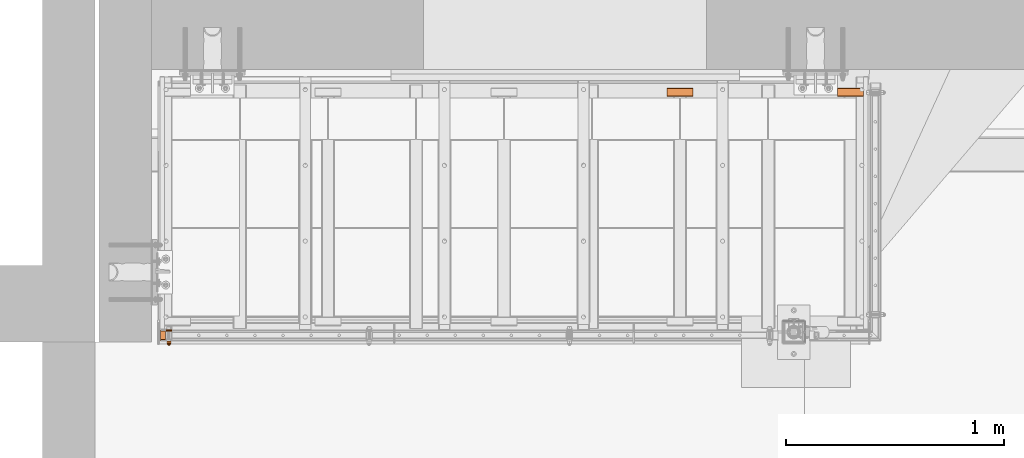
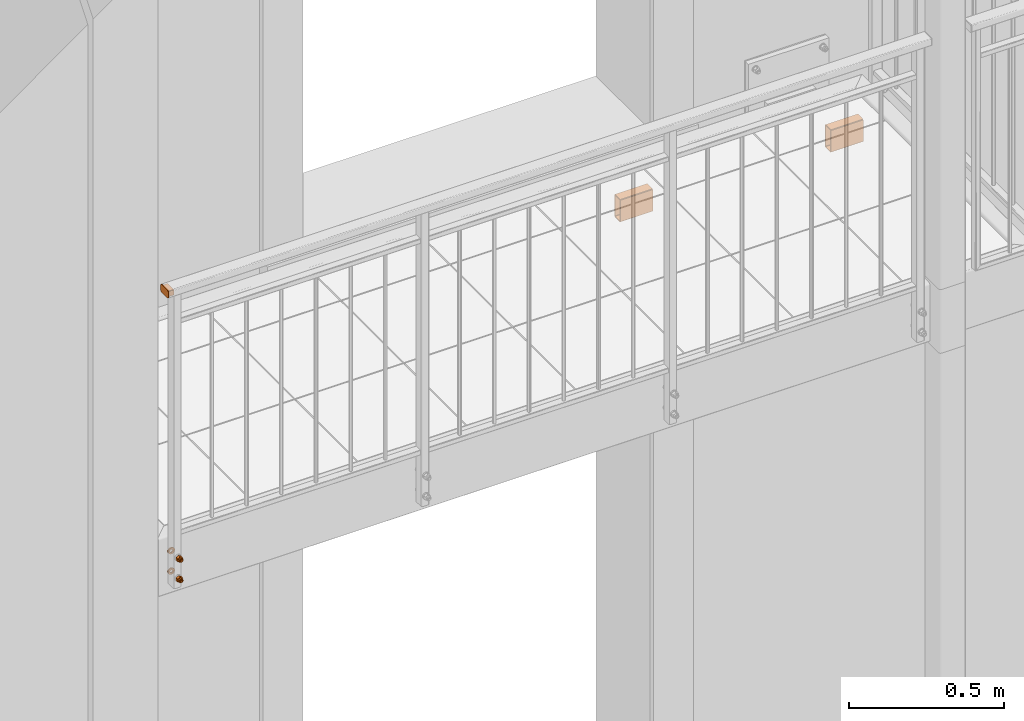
# One storey, part 101 of 162: 7 proxies.
"""IFC2X3 building model written with IfcOpenShell, lengths in millimetres."""

from ifc_helpers import new_model, entity, si_unit, converted_unit, origin_with_axes, place, context, project, spatial, faceted_brep, material, element, save


model = new_model("IFC2X3")

# Units and contexts
model_context = context("Model", 3, precision=1e-09, world=origin_with_axes())
ifc_project = project(units=[si_unit("LENGTHUNIT", "METRE", prefix="MILLI"), si_unit("AREAUNIT", "SQUARE_METRE"), si_unit("VOLUMEUNIT", "CUBIC_METRE"), converted_unit("PLANEANGLEUNIT", "DEGREE", entity("IfcPlaneAngleMeasure", 0.01745329), si_unit("PLANEANGLEUNIT", "RADIAN"), dimensions=[0, 0, 0, 0, 0, 0, 0])], contexts=[model_context])

# Site, building, storey
site_placement = place(None, origin_with_axes())
site = spatial("IfcSite", under=ifc_project, at=site_placement, Name="Hermannstra?e 1a, 60318 Frankfurt", CompositionType="ELEMENT")
building_placement = place(site_placement, origin_with_axes())
building = spatial("IfcBuilding", under=site, at=building_placement, Name="Struktur 1", CompositionType="ELEMENT")
storey_placement = place(building_placement, origin_with_axes())
storey = spatial("IfcBuildingStorey", under=building, at=storey_placement, Name="Default Storey", CompositionType="ELEMENT", Elevation=0.0)

# Proxies
ifc_material_1 = material(Name="Kein")
proxy_1_placement = place(None, origin_with_axes())
element("IfcBuildingElementProxy", 1, at=proxy_1_placement, inside=storey, material=ifc_material_1, ObjectType="-", context=model_context, shape_type="Brep", body=[
    faceted_brep([(2588.31036482, 1494.609373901, 4931.0), (2588.31036482, 1494.609373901, 4949.0), (2568.31036482, 1494.609373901, 4949.0), (2568.31036482, 1494.609373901, 4931.0), (2588.31036482, 1494.877323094, 4950.0), (2568.31036482, 1494.877323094, 4950.0), (2568.31036482, 1495.609373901, 4950.732050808), (2588.31036482, 1495.609373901, 4950.732050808), (2588.31036482, 1496.609373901, 4951.0), (2568.31036482, 1496.609373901, 4951.0), (2568.31036482, 1494.877323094, 4930.0), (2588.31036482, 1494.877323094, 4930.0), (2568.31036482, 1495.609373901, 4929.267949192), (2588.31036482, 1495.609373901, 4929.267949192), (2588.31036482, 1496.609373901, 4929.0), (2588.31036482, 1534.609373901, 4929.0), (2588.31036482, 1535.609373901, 4929.267949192), (2588.31036482, 1536.341424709, 4930.0), (2588.31036482, 1536.609373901, 4931.0), (2588.31036482, 1536.609373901, 4949.0), (2588.31036482, 1536.341424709, 4950.0), (2588.31036482, 1535.609373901, 4950.732050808), (2588.31036482, 1534.609373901, 4951.0), (2588.31036482, 1498.609373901, 4947.0), (2588.31036482, 1532.609373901, 4947.0), (2588.31036482, 1532.609373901, 4933.0), (2588.31036482, 1498.609373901, 4933.0), (2568.31036482, 1534.609373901, 4951.0), (2568.31036482, 1535.609373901, 4950.732050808), (2568.31036482, 1536.341424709, 4950.0), (2568.31036482, 1536.609373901, 4949.0), (2568.31036482, 1536.609373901, 4931.0), (2568.31036482, 1536.341424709, 4930.0), (2568.31036482, 1535.609373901, 4929.267949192), (2568.31036482, 1534.609373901, 4929.0), (2568.31036482, 1496.609373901, 4929.0), (2568.31036482, 1498.609373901, 4947.0), (2568.31036482, 1498.609373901, 4933.0), (2568.31036482, 1532.609373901, 4933.0), (2568.31036482, 1532.609373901, 4947.0)], [[[0, 1, 2, 3]], [[2, 1, 4, 5]], [[6, 7, 8, 9]], [[5, 4, 7, 6]], [[0, 3, 10, 11]], [[11, 10, 12, 13]], [[7, 4, 1, 0, 11, 13, 14, 15, 16, 17, 18, 19, 20, 21, 22, 8], [23, 24, 25, 26]], [[3, 2, 5, 6, 9, 27, 28, 29, 30, 31, 32, 33, 34, 35, 12, 10], [36, 37, 38, 39]], [[21, 28, 27, 22]], [[8, 22, 27, 9]], [[37, 36, 23, 26]], [[28, 21, 20, 29]], [[13, 12, 35, 14]], [[26, 25, 38, 37]], [[15, 14, 35, 34]], [[15, 34, 33, 16]], [[36, 39, 24, 23]], [[29, 20, 19, 30]], [[16, 33, 32, 17]], [[25, 24, 39, 38]], [[19, 18, 31, 30]], [[17, 32, 31, 18]]]),
    faceted_brep([(2565.31036482, 1496.609373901, 4925.0), (2568.31036482, 1496.609373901, 4925.0), (2568.31036482, 1493.609373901, 4925.803847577), (2565.31036482, 1493.609373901, 4925.803847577), (2568.31036482, 1491.413221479, 4928.0), (2565.31036482, 1491.413221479, 4928.0), (2568.31036482, 1534.609373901, 4925.0), (2565.31036482, 1534.609373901, 4925.0), (2565.31036482, 1537.609373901, 4925.803847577), (2568.31036482, 1537.609373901, 4925.803847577), (2565.31036482, 1539.805526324, 4928.0), (2568.31036482, 1539.805526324, 4928.0), (2568.31036482, 1490.609373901, 4931.0), (2568.31036482, 1540.609373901, 4931.0), (2568.31036482, 1540.609373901, 4949.0), (2568.31036482, 1539.805526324, 4952.0), (2568.31036482, 1537.609373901, 4954.196152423), (2568.31036482, 1534.609373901, 4955.0), (2568.31036482, 1496.609373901, 4955.0), (2568.31036482, 1493.609373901, 4954.196152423), (2568.31036482, 1491.413221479, 4952.0), (2568.31036482, 1490.609373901, 4949.0), (2565.31036482, 1540.609373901, 4931.0), (2565.31036482, 1490.609373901, 4931.0), (2565.31036482, 1490.609373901, 4949.0), (2565.31036482, 1491.413221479, 4952.0), (2565.31036482, 1493.609373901, 4954.196152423), (2565.31036482, 1496.609373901, 4955.0), (2565.31036482, 1534.609373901, 4955.0), (2565.31036482, 1537.609373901, 4954.196152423), (2565.31036482, 1539.805526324, 4952.0), (2565.31036482, 1540.609373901, 4949.0)], [[[0, 1, 2, 3]], [[3, 2, 4, 5]], [[6, 7, 8, 9]], [[9, 8, 10, 11]], [[12, 4, 2, 1, 6, 9, 11, 13, 14, 15, 16, 17, 18, 19, 20, 21]], [[0, 7, 6, 1]], [[22, 10, 8, 7, 0, 3, 5, 23, 24, 25, 26, 27, 28, 29, 30, 31]], [[5, 4, 12, 23]], [[12, 21, 24, 23]], [[11, 10, 22, 13]], [[19, 26, 25, 20]], [[20, 25, 24, 21]], [[26, 19, 18, 27]], [[22, 31, 14, 13]], [[18, 17, 28, 27]], [[14, 31, 30, 15]], [[16, 29, 28, 17]], [[15, 30, 29, 16]]]),
])
proxy_2_placement = place(None, origin_with_axes())
element("IfcBuildingElementProxy", 2, at=proxy_2_placement, inside=storey, material=ifc_material_1, ObjectType="-", context=model_context, shape_type="Brep", body=[
    faceted_brep([(2597.30936482, 1490.609373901, 3815.0), (2597.30936482, 1480.609373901, 3815.0), (2598.113212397, 1480.609373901, 3812.0), (2598.113212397, 1490.609373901, 3812.0), (2600.30936482, 1480.609373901, 3809.803847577), (2600.30936482, 1490.609373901, 3809.803847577), (2598.113212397, 1490.609373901, 3818.0), (2598.113212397, 1480.609373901, 3818.0), (2593.829495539, 1490.609373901, 3820.473205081), (2603.30936482, 1490.609373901, 3825.946410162), (2612.7892341, 1490.609373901, 3820.473205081), (2612.7892341, 1490.609373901, 3809.526794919), (2603.30936482, 1490.609373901, 3804.053589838), (2593.829495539, 1490.609373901, 3809.526794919), (2600.30936482, 1490.609373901, 3820.196152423), (2603.30936482, 1490.609373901, 3809.0), (2606.30936482, 1490.609373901, 3809.803847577), (2608.505517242, 1490.609373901, 3812.0), (2609.30936482, 1490.609373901, 3815.0), (2608.505517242, 1490.609373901, 3818.0), (2606.30936482, 1490.609373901, 3820.196152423), (2603.30936482, 1490.609373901, 3821.0), (2603.30936482, 1480.609373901, 3825.946410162), (2593.829495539, 1480.609373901, 3820.473205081), (2593.829495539, 1480.609373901, 3809.526794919), (2603.30936482, 1480.609373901, 3804.053589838), (2612.7892341, 1480.609373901, 3809.526794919), (2612.7892341, 1480.609373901, 3820.473205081), (2600.30936482, 1480.609373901, 3820.196152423), (2603.30936482, 1480.609373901, 3821.0), (2606.30936482, 1480.609373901, 3820.196152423), (2608.505517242, 1480.609373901, 3818.0), (2609.30936482, 1480.609373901, 3815.0), (2608.505517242, 1480.609373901, 3812.0), (2606.30936482, 1480.609373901, 3809.803847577), (2603.30936482, 1480.609373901, 3809.0)], [[[0, 1, 2, 3]], [[3, 2, 4, 5]], [[1, 0, 6, 7]], [[8, 9, 10, 11, 12, 13], [14, 6, 0, 3, 5, 15, 16, 17, 18, 19, 20, 21]], [[22, 23, 24, 25, 26, 27], [1, 7, 28, 29, 30, 31, 32, 33, 34, 35, 4, 2]], [[7, 6, 14, 28]], [[24, 23, 8, 13]], [[5, 4, 35, 15]], [[13, 12, 25, 24]], [[28, 14, 21, 29]], [[23, 22, 9, 8]], [[15, 35, 34, 16]], [[12, 11, 26, 25]], [[29, 21, 20, 30]], [[22, 27, 10, 9]], [[16, 34, 33, 17]], [[27, 26, 11, 10]], [[30, 20, 19, 31]], [[17, 33, 32, 18]], [[31, 19, 18, 32]]]),
    faceted_brep([(2603.30936482, 1480.609373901, 3824.0), (2603.30936482, 1477.609373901, 3824.0), (2607.80936482, 1477.609373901, 3822.794228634), (2607.80936482, 1480.609373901, 3822.794228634), (2598.80936482, 1480.609373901, 3822.794228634), (2598.80936482, 1477.609373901, 3822.794228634), (2595.515136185, 1477.609373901, 3810.5), (2598.80936482, 1477.609373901, 3807.205771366), (2603.30936482, 1477.609373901, 3806.0), (2607.80936482, 1477.609373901, 3807.205771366), (2611.103593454, 1477.609373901, 3810.5), (2612.30936482, 1477.609373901, 3815.0), (2611.103593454, 1477.609373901, 3819.5), (2595.515136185, 1477.609373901, 3819.5), (2594.30936482, 1477.609373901, 3815.0), (2611.103593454, 1480.609373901, 3810.5), (2607.80936482, 1480.609373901, 3807.205771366), (2603.30936482, 1480.609373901, 3806.0), (2598.80936482, 1480.609373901, 3807.205771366), (2595.515136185, 1480.609373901, 3810.5), (2594.30936482, 1480.609373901, 3815.0), (2595.515136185, 1480.609373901, 3819.5), (2611.103593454, 1480.609373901, 3819.5), (2612.30936482, 1480.609373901, 3815.0)], [[[0, 1, 2, 3]], [[1, 0, 4, 5]], [[6, 7, 8, 9, 10, 11, 12, 2, 1, 5, 13, 14]], [[15, 16, 17, 18, 19, 20, 21, 4, 0, 3, 22, 23]], [[3, 2, 12, 22]], [[5, 4, 21, 13]], [[22, 12, 11, 23]], [[13, 21, 20, 14]], [[7, 18, 17, 8]], [[19, 6, 14, 20]], [[18, 7, 6, 19]], [[23, 11, 10, 15]], [[8, 17, 16, 9]], [[15, 10, 9, 16]]]),
    faceted_brep([(2595.515136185, 1477.609373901, 3819.5), (2596.55936482, 1473.109373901, 3818.897114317), (2599.412250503, 1473.109373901, 3821.75), (2598.80936482, 1477.609373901, 3822.794228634), (2611.103593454, 1477.609373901, 3810.5), (2607.80936482, 1477.609373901, 3807.205771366), (2603.30936482, 1477.609373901, 3806.0), (2598.80936482, 1477.609373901, 3807.205771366), (2595.515136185, 1477.609373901, 3810.5), (2594.30936482, 1477.609373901, 3815.0), (2603.30936482, 1477.609373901, 3824.0), (2607.80936482, 1477.609373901, 3822.794228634), (2611.103593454, 1477.609373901, 3819.5), (2612.30936482, 1477.609373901, 3815.0), (2603.30936482, 1473.109373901, 3822.794228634), (2595.515136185, 1473.109373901, 3815.0), (2598.80936482, 1469.815145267, 3815.0), (2599.412250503, 1469.815145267, 3817.25), (2607.206479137, 1473.109373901, 3821.75), (2601.05936482, 1469.815145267, 3818.897114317), (2596.55936482, 1473.109373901, 3811.102885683), (2599.412250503, 1469.815145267, 3812.75), (2603.30936482, 1469.815145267, 3819.5), (2603.30936482, 1468.609373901, 3815.0), (2599.412250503, 1473.109373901, 3808.25), (2601.05936482, 1469.815145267, 3811.102885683), (2603.30936482, 1473.109373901, 3807.205771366), (2610.05936482, 1473.109373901, 3818.897114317), (2605.55936482, 1469.815145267, 3818.897114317), (2603.30936482, 1469.815145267, 3810.5), (2607.206479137, 1473.109373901, 3808.25), (2605.55936482, 1469.815145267, 3811.102885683), (2611.103593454, 1473.109373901, 3815.0), (2607.206479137, 1469.815145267, 3817.25), (2610.05936482, 1473.109373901, 3811.102885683), (2607.206479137, 1469.815145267, 3812.75), (2607.80936482, 1469.815145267, 3815.0)], [[[0, 1, 2, 3]], [[4, 5, 6, 7, 8, 9, 0, 3, 10, 11, 12, 13]], [[3, 2, 14, 10]], [[15, 16, 17, 1]], [[1, 0, 9, 15]], [[10, 14, 18, 11]], [[1, 17, 19, 2]], [[16, 15, 20, 21]], [[2, 19, 22, 14]], [[23, 17, 16]], [[24, 25, 21, 20]], [[23, 16, 21]], [[24, 7, 6, 26]], [[20, 8, 7, 24]], [[15, 9, 8, 20]], [[11, 18, 27, 12]], [[14, 22, 28, 18]], [[23, 19, 17]], [[26, 29, 25, 24]], [[23, 21, 25]], [[23, 22, 19]], [[26, 6, 5, 30]], [[29, 26, 30, 31]], [[23, 25, 29]], [[12, 27, 32, 13]], [[18, 28, 33, 27]], [[23, 28, 22]], [[23, 29, 31]], [[23, 33, 28]], [[30, 5, 4, 34]], [[31, 30, 34, 35]], [[23, 31, 35]], [[13, 32, 34, 4]], [[27, 33, 36, 32]], [[23, 36, 33]], [[23, 35, 36]], [[35, 34, 32, 36]]]),
])
proxy_3_placement = place(None, origin_with_axes())
element("IfcBuildingElementProxy", 3, at=proxy_3_placement, inside=storey, material=ifc_material_1, ObjectType="-", context=model_context, shape_type="Brep", body=[
    faceted_brep([(2597.30936482, 1490.609373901, 3895.0), (2597.30936482, 1480.609373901, 3895.0), (2598.113212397, 1480.609373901, 3892.0), (2598.113212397, 1490.609373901, 3892.0), (2600.30936482, 1480.609373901, 3889.803847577), (2600.30936482, 1490.609373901, 3889.803847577), (2598.113212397, 1490.609373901, 3898.0), (2598.113212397, 1480.609373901, 3898.0), (2593.829495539, 1490.609373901, 3900.473205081), (2603.30936482, 1490.609373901, 3905.946410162), (2612.7892341, 1490.609373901, 3900.473205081), (2612.7892341, 1490.609373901, 3889.526794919), (2603.30936482, 1490.609373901, 3884.053589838), (2593.829495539, 1490.609373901, 3889.526794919), (2600.30936482, 1490.609373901, 3900.196152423), (2603.30936482, 1490.609373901, 3889.0), (2606.30936482, 1490.609373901, 3889.803847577), (2608.505517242, 1490.609373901, 3892.0), (2609.30936482, 1490.609373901, 3895.0), (2608.505517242, 1490.609373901, 3898.0), (2606.30936482, 1490.609373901, 3900.196152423), (2603.30936482, 1490.609373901, 3901.0), (2603.30936482, 1480.609373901, 3905.946410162), (2593.829495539, 1480.609373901, 3900.473205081), (2593.829495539, 1480.609373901, 3889.526794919), (2603.30936482, 1480.609373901, 3884.053589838), (2612.7892341, 1480.609373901, 3889.526794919), (2612.7892341, 1480.609373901, 3900.473205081), (2600.30936482, 1480.609373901, 3900.196152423), (2603.30936482, 1480.609373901, 3901.0), (2606.30936482, 1480.609373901, 3900.196152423), (2608.505517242, 1480.609373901, 3898.0), (2609.30936482, 1480.609373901, 3895.0), (2608.505517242, 1480.609373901, 3892.0), (2606.30936482, 1480.609373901, 3889.803847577), (2603.30936482, 1480.609373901, 3889.0)], [[[0, 1, 2, 3]], [[3, 2, 4, 5]], [[1, 0, 6, 7]], [[8, 9, 10, 11, 12, 13], [14, 6, 0, 3, 5, 15, 16, 17, 18, 19, 20, 21]], [[22, 23, 24, 25, 26, 27], [1, 7, 28, 29, 30, 31, 32, 33, 34, 35, 4, 2]], [[7, 6, 14, 28]], [[24, 23, 8, 13]], [[5, 4, 35, 15]], [[13, 12, 25, 24]], [[28, 14, 21, 29]], [[23, 22, 9, 8]], [[15, 35, 34, 16]], [[12, 11, 26, 25]], [[29, 21, 20, 30]], [[22, 27, 10, 9]], [[16, 34, 33, 17]], [[27, 26, 11, 10]], [[30, 20, 19, 31]], [[17, 33, 32, 18]], [[31, 19, 18, 32]]]),
    faceted_brep([(2603.30936482, 1480.609373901, 3904.0), (2603.30936482, 1477.609373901, 3904.0), (2607.80936482, 1477.609373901, 3902.794228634), (2607.80936482, 1480.609373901, 3902.794228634), (2598.80936482, 1480.609373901, 3902.794228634), (2598.80936482, 1477.609373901, 3902.794228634), (2595.515136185, 1477.609373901, 3890.5), (2598.80936482, 1477.609373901, 3887.205771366), (2603.30936482, 1477.609373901, 3886.0), (2607.80936482, 1477.609373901, 3887.205771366), (2611.103593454, 1477.609373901, 3890.5), (2612.30936482, 1477.609373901, 3895.0), (2611.103593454, 1477.609373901, 3899.5), (2595.515136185, 1477.609373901, 3899.5), (2594.30936482, 1477.609373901, 3895.0), (2611.103593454, 1480.609373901, 3890.5), (2607.80936482, 1480.609373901, 3887.205771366), (2603.30936482, 1480.609373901, 3886.0), (2598.80936482, 1480.609373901, 3887.205771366), (2595.515136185, 1480.609373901, 3890.5), (2594.30936482, 1480.609373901, 3895.0), (2595.515136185, 1480.609373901, 3899.5), (2611.103593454, 1480.609373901, 3899.5), (2612.30936482, 1480.609373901, 3895.0)], [[[0, 1, 2, 3]], [[1, 0, 4, 5]], [[6, 7, 8, 9, 10, 11, 12, 2, 1, 5, 13, 14]], [[15, 16, 17, 18, 19, 20, 21, 4, 0, 3, 22, 23]], [[3, 2, 12, 22]], [[5, 4, 21, 13]], [[22, 12, 11, 23]], [[13, 21, 20, 14]], [[7, 18, 17, 8]], [[19, 6, 14, 20]], [[18, 7, 6, 19]], [[23, 11, 10, 15]], [[8, 17, 16, 9]], [[15, 10, 9, 16]]]),
    faceted_brep([(2595.515136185, 1477.609373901, 3899.5), (2596.55936482, 1473.109373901, 3898.897114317), (2599.412250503, 1473.109373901, 3901.75), (2598.80936482, 1477.609373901, 3902.794228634), (2611.103593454, 1477.609373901, 3890.5), (2607.80936482, 1477.609373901, 3887.205771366), (2603.30936482, 1477.609373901, 3886.0), (2598.80936482, 1477.609373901, 3887.205771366), (2595.515136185, 1477.609373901, 3890.5), (2594.30936482, 1477.609373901, 3895.0), (2603.30936482, 1477.609373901, 3904.0), (2607.80936482, 1477.609373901, 3902.794228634), (2611.103593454, 1477.609373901, 3899.5), (2612.30936482, 1477.609373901, 3895.0), (2603.30936482, 1473.109373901, 3902.794228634), (2595.515136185, 1473.109373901, 3895.0), (2598.80936482, 1469.815145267, 3895.0), (2599.412250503, 1469.815145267, 3897.25), (2607.206479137, 1473.109373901, 3901.75), (2601.05936482, 1469.815145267, 3898.897114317), (2596.55936482, 1473.109373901, 3891.102885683), (2599.412250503, 1469.815145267, 3892.75), (2603.30936482, 1469.815145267, 3899.5), (2603.30936482, 1468.609373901, 3895.0), (2599.412250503, 1473.109373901, 3888.25), (2601.05936482, 1469.815145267, 3891.102885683), (2603.30936482, 1473.109373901, 3887.205771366), (2610.05936482, 1473.109373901, 3898.897114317), (2605.55936482, 1469.815145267, 3898.897114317), (2603.30936482, 1469.815145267, 3890.5), (2607.206479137, 1473.109373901, 3888.25), (2605.55936482, 1469.815145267, 3891.102885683), (2611.103593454, 1473.109373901, 3895.0), (2607.206479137, 1469.815145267, 3897.25), (2610.05936482, 1473.109373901, 3891.102885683), (2607.206479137, 1469.815145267, 3892.75), (2607.80936482, 1469.815145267, 3895.0)], [[[0, 1, 2, 3]], [[4, 5, 6, 7, 8, 9, 0, 3, 10, 11, 12, 13]], [[3, 2, 14, 10]], [[15, 16, 17, 1]], [[1, 0, 9, 15]], [[10, 14, 18, 11]], [[1, 17, 19, 2]], [[16, 15, 20, 21]], [[2, 19, 22, 14]], [[23, 17, 16]], [[24, 25, 21, 20]], [[23, 16, 21]], [[24, 7, 6, 26]], [[20, 8, 7, 24]], [[15, 9, 8, 20]], [[11, 18, 27, 12]], [[14, 22, 28, 18]], [[23, 19, 17]], [[26, 29, 25, 24]], [[23, 21, 25]], [[23, 22, 19]], [[26, 6, 5, 30]], [[29, 26, 30, 31]], [[23, 25, 29]], [[12, 27, 32, 13]], [[18, 28, 33, 27]], [[23, 28, 22]], [[23, 29, 31]], [[23, 33, 28]], [[30, 5, 4, 34]], [[31, 30, 34, 35]], [[23, 31, 35]], [[13, 32, 34, 4]], [[27, 33, 36, 32]], [[23, 36, 33]], [[23, 35, 36]], [[35, 34, 32, 36]]]),
])
proxy_4_placement = place(None, origin_with_axes())
element("IfcBuildingElementProxy", 4, at=proxy_4_placement, inside=storey, material=ifc_material_1, ObjectType="-", context=model_context, shape_type="Brep", body=[
    faceted_brep([(2592.484047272, 1535.609373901, 3888.75), (2597.05936482, 1535.609373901, 3884.174682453), (2603.30936482, 1535.609373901, 3882.5), (2609.55936482, 1535.609373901, 3884.174682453), (2614.134682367, 1535.609373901, 3888.75), (2615.80936482, 1535.609373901, 3895.0), (2614.134682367, 1535.609373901, 3901.25), (2609.55936482, 1535.609373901, 3905.825317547), (2603.30936482, 1535.609373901, 3907.5), (2597.05936482, 1535.609373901, 3905.825317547), (2592.484047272, 1535.609373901, 3901.25), (2590.80936482, 1535.609373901, 3895.0), (2603.30936482, 1535.609373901, 3889.0), (2600.30936482, 1535.609373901, 3889.803847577), (2598.113212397, 1535.609373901, 3892.0), (2597.30936482, 1535.609373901, 3895.0), (2598.113212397, 1535.609373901, 3898.0), (2600.30936482, 1535.609373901, 3900.196152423), (2603.30936482, 1535.609373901, 3901.0), (2606.30936482, 1535.609373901, 3900.196152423), (2608.505517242, 1535.609373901, 3898.0), (2609.30936482, 1535.609373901, 3895.0), (2608.505517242, 1535.609373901, 3892.0), (2606.30936482, 1535.609373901, 3889.803847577), (2592.484047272, 1540.609373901, 3888.75), (2597.05936482, 1540.609373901, 3884.174682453), (2590.80936482, 1540.609373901, 3895.0), (2592.484047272, 1540.609373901, 3901.25), (2597.05936482, 1540.609373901, 3905.825317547), (2603.30936482, 1540.609373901, 3907.5), (2609.55936482, 1540.609373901, 3905.825317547), (2614.134682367, 1540.609373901, 3901.25), (2615.80936482, 1540.609373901, 3895.0), (2614.134682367, 1540.609373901, 3888.75), (2609.55936482, 1540.609373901, 3884.174682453), (2603.30936482, 1540.609373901, 3882.5), (2598.113212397, 1540.609373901, 3898.0), (2597.30936482, 1540.609373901, 3895.0), (2598.113212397, 1540.609373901, 3892.0), (2600.30936482, 1540.609373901, 3889.803847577), (2603.30936482, 1540.609373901, 3889.0), (2606.30936482, 1540.609373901, 3889.803847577), (2608.505517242, 1540.609373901, 3892.0), (2609.30936482, 1540.609373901, 3895.0), (2608.505517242, 1540.609373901, 3898.0), (2606.30936482, 1540.609373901, 3900.196152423), (2603.30936482, 1540.609373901, 3901.0), (2600.30936482, 1540.609373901, 3900.196152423)], [[[0, 1, 2, 3, 4, 5, 6, 7, 8, 9, 10, 11], [12, 13, 14, 15, 16, 17, 18, 19, 20, 21, 22, 23]], [[0, 24, 25, 1]], [[24, 26, 27, 28, 29, 30, 31, 32, 33, 34, 35, 25], [36, 37, 38, 39, 40, 41, 42, 43, 44, 45, 46, 47]], [[38, 14, 13, 39]], [[24, 0, 11, 26]], [[14, 38, 37, 15]], [[39, 13, 12, 40]], [[1, 25, 35, 2]], [[26, 11, 10, 27]], [[15, 37, 36, 16]], [[40, 12, 23, 41]], [[2, 35, 34, 3]], [[27, 10, 9, 28]], [[16, 36, 47, 17]], [[22, 42, 41, 23]], [[3, 34, 33, 4]], [[42, 22, 21, 43]], [[28, 9, 8, 29]], [[17, 47, 46, 18]], [[20, 44, 43, 21]], [[4, 33, 32, 5]], [[45, 19, 18, 46]], [[44, 20, 19, 45]], [[29, 8, 7, 30]], [[5, 32, 31, 6]], [[30, 7, 6, 31]]]),
])
proxy_5_placement = place(None, origin_with_axes())
element("IfcBuildingElementProxy", 5, at=proxy_5_placement, inside=storey, material=ifc_material_1, ObjectType="-", context=model_context, shape_type="Brep", body=[
    faceted_brep([(2592.484047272, 1535.609373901, 3808.75), (2597.05936482, 1535.609373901, 3804.174682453), (2603.30936482, 1535.609373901, 3802.5), (2609.55936482, 1535.609373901, 3804.174682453), (2614.134682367, 1535.609373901, 3808.75), (2615.80936482, 1535.609373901, 3815.0), (2614.134682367, 1535.609373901, 3821.25), (2609.55936482, 1535.609373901, 3825.825317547), (2603.30936482, 1535.609373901, 3827.5), (2597.05936482, 1535.609373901, 3825.825317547), (2592.484047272, 1535.609373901, 3821.25), (2590.80936482, 1535.609373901, 3815.0), (2603.30936482, 1535.609373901, 3809.0), (2600.30936482, 1535.609373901, 3809.803847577), (2598.113212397, 1535.609373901, 3812.0), (2597.30936482, 1535.609373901, 3815.0), (2598.113212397, 1535.609373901, 3818.0), (2600.30936482, 1535.609373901, 3820.196152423), (2603.30936482, 1535.609373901, 3821.0), (2606.30936482, 1535.609373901, 3820.196152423), (2608.505517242, 1535.609373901, 3818.0), (2609.30936482, 1535.609373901, 3815.0), (2608.505517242, 1535.609373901, 3812.0), (2606.30936482, 1535.609373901, 3809.803847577), (2592.484047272, 1540.609373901, 3808.75), (2597.05936482, 1540.609373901, 3804.174682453), (2590.80936482, 1540.609373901, 3815.0), (2592.484047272, 1540.609373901, 3821.25), (2597.05936482, 1540.609373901, 3825.825317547), (2603.30936482, 1540.609373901, 3827.5), (2609.55936482, 1540.609373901, 3825.825317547), (2614.134682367, 1540.609373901, 3821.25), (2615.80936482, 1540.609373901, 3815.0), (2614.134682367, 1540.609373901, 3808.75), (2609.55936482, 1540.609373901, 3804.174682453), (2603.30936482, 1540.609373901, 3802.5), (2598.113212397, 1540.609373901, 3818.0), (2597.30936482, 1540.609373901, 3815.0), (2598.113212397, 1540.609373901, 3812.0), (2600.30936482, 1540.609373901, 3809.803847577), (2603.30936482, 1540.609373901, 3809.0), (2606.30936482, 1540.609373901, 3809.803847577), (2608.505517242, 1540.609373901, 3812.0), (2609.30936482, 1540.609373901, 3815.0), (2608.505517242, 1540.609373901, 3818.0), (2606.30936482, 1540.609373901, 3820.196152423), (2603.30936482, 1540.609373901, 3821.0), (2600.30936482, 1540.609373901, 3820.196152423)], [[[0, 1, 2, 3, 4, 5, 6, 7, 8, 9, 10, 11], [12, 13, 14, 15, 16, 17, 18, 19, 20, 21, 22, 23]], [[0, 24, 25, 1]], [[24, 26, 27, 28, 29, 30, 31, 32, 33, 34, 35, 25], [36, 37, 38, 39, 40, 41, 42, 43, 44, 45, 46, 47]], [[38, 14, 13, 39]], [[24, 0, 11, 26]], [[14, 38, 37, 15]], [[39, 13, 12, 40]], [[1, 25, 35, 2]], [[26, 11, 10, 27]], [[15, 37, 36, 16]], [[40, 12, 23, 41]], [[2, 35, 34, 3]], [[27, 10, 9, 28]], [[16, 36, 47, 17]], [[22, 42, 41, 23]], [[3, 34, 33, 4]], [[42, 22, 21, 43]], [[28, 9, 8, 29]], [[17, 47, 46, 18]], [[20, 44, 43, 21]], [[4, 33, 32, 5]], [[45, 19, 18, 46]], [[44, 20, 19, 45]], [[29, 8, 7, 30]], [[5, 32, 31, 6]], [[30, 7, 6, 31]]]),
])
ifc_material_2 = material(Name="Alu")
proxy_6_placement = place(None, origin_with_axes())
element("IfcBuildingElementProxy", 6, at=proxy_6_placement, inside=storey, material=ifc_material_2, ObjectType="-", context=model_context, shape_type="Brep", body=[
    faceted_brep([(5011.55936482, 2612.413221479, 3733.0), (5011.55936482, 2614.609373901, 3730.803847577), (5011.55936482, 2617.609373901, 3730.0), (5011.55936482, 2645.609373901, 3730.0), (5011.55936482, 2648.609373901, 3730.803847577), (5011.55936482, 2650.805526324, 3733.0), (5011.55936482, 2651.609373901, 3736.0), (5011.55936482, 2651.609373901, 3814.0), (5011.55936482, 2650.805526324, 3817.0), (5011.55936482, 2648.609373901, 3819.196152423), (5011.55936482, 2645.609373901, 3820.0), (5011.55936482, 2617.609373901, 3820.0), (5011.55936482, 2614.609373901, 3819.196152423), (5011.55936482, 2612.413221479, 3817.0), (5011.55936482, 2611.609373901, 3814.0), (5011.55936482, 2611.609373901, 3736.0), (5011.55936482, 2614.609373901, 3736.0), (5011.55936482, 2614.609373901, 3814.0), (5011.55936482, 2615.01129769, 3815.5), (5011.55936482, 2616.109373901, 3816.598076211), (5011.55936482, 2617.609373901, 3817.0), (5011.55936482, 2645.609373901, 3817.0), (5011.55936482, 2647.109373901, 3816.598076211), (5011.55936482, 2648.207450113, 3815.5), (5011.55936482, 2648.609373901, 3814.0), (5011.55936482, 2648.609373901, 3736.0), (5011.55936482, 2648.207450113, 3734.5), (5011.55936482, 2647.109373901, 3733.401923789), (5011.55936482, 2645.609373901, 3733.0), (5011.55936482, 2617.609373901, 3733.0), (5011.55936482, 2616.109373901, 3733.401923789), (5011.55936482, 2615.01129769, 3734.5), (4891.55936482, 2614.609373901, 3736.0), (4891.55936482, 2615.01129769, 3734.5), (4891.55936482, 2611.609373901, 3736.0), (4891.55936482, 2612.413221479, 3733.0), (4891.55936482, 2611.609373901, 3814.0), (4891.55936482, 2612.413221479, 3817.0), (4891.55936482, 2614.609373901, 3819.196152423), (4891.55936482, 2617.609373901, 3820.0), (4891.55936482, 2645.609373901, 3820.0), (4891.55936482, 2648.609373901, 3819.196152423), (4891.55936482, 2650.805526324, 3817.0), (4891.55936482, 2651.609373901, 3814.0), (4891.55936482, 2651.609373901, 3736.0), (4891.55936482, 2650.805526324, 3733.0), (4891.55936482, 2648.609373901, 3730.803847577), (4891.55936482, 2645.609373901, 3730.0), (4891.55936482, 2617.609373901, 3730.0), (4891.55936482, 2614.609373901, 3730.803847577), (4891.55936482, 2614.609373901, 3814.0), (4891.55936482, 2616.109373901, 3733.401923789), (4891.55936482, 2617.609373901, 3733.0), (4891.55936482, 2645.609373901, 3733.0), (4891.55936482, 2647.109373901, 3733.401923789), (4891.55936482, 2648.207450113, 3734.5), (4891.55936482, 2648.609373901, 3736.0), (4891.55936482, 2648.609373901, 3814.0), (4891.55936482, 2648.207450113, 3815.5), (4891.55936482, 2647.109373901, 3816.598076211), (4891.55936482, 2645.609373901, 3817.0), (4891.55936482, 2617.609373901, 3817.0), (4891.55936482, 2616.109373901, 3816.598076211), (4891.55936482, 2615.01129769, 3815.5)], [[[0, 1, 2, 3, 4, 5, 6, 7, 8, 9, 10, 11, 12, 13, 14, 15], [16, 17, 18, 19, 20, 21, 22, 23, 24, 25, 26, 27, 28, 29, 30, 31]], [[32, 16, 31, 33]], [[15, 34, 35, 0]], [[36, 37, 38, 39, 40, 41, 42, 43, 44, 45, 46, 47, 48, 49, 35, 34], [50, 32, 33, 51, 52, 53, 54, 55, 56, 57, 58, 59, 60, 61, 62, 63]], [[17, 16, 32, 50]], [[36, 34, 15, 14]], [[36, 14, 13, 37]], [[33, 31, 30, 51]], [[0, 35, 49, 1]], [[17, 50, 63, 18]], [[37, 13, 12, 38]], [[51, 30, 29, 52]], [[1, 49, 48, 2]], [[18, 63, 62, 19]], [[38, 12, 11, 39]], [[53, 52, 29, 28]], [[3, 2, 48, 47]], [[19, 62, 61, 20]], [[40, 39, 11, 10]], [[21, 20, 61, 60]], [[53, 28, 27, 54]], [[3, 47, 46, 4]], [[40, 10, 9, 41]], [[21, 60, 59, 22]], [[54, 27, 26, 55]], [[4, 46, 45, 5]], [[44, 6, 5, 45]], [[41, 9, 8, 42]], [[22, 59, 58, 23]], [[55, 26, 25, 56]], [[7, 6, 44, 43]], [[57, 24, 23, 58]], [[25, 24, 57, 56]], [[42, 8, 7, 43]]]),
])
proxy_7_placement = place(None, origin_with_axes())
element("IfcBuildingElementProxy", 7, at=proxy_7_placement, inside=storey, material=ifc_material_2, ObjectType="-", context=model_context, shape_type="Brep", body=[
    faceted_brep([(5793.30936482, 2612.413221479, 3733.0), (5793.30936482, 2614.609373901, 3730.803847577), (5793.30936482, 2617.609373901, 3730.0), (5793.30936482, 2645.609373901, 3730.0), (5793.30936482, 2648.609373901, 3730.803847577), (5793.30936482, 2650.805526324, 3733.0), (5793.30936482, 2651.609373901, 3736.0), (5793.30936482, 2651.609373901, 3814.0), (5793.30936482, 2650.805526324, 3817.0), (5793.30936482, 2648.609373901, 3819.196152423), (5793.30936482, 2645.609373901, 3820.0), (5793.30936482, 2617.609373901, 3820.0), (5793.30936482, 2614.609373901, 3819.196152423), (5793.30936482, 2612.413221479, 3817.0), (5793.30936482, 2611.609373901, 3814.0), (5793.30936482, 2611.609373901, 3736.0), (5793.30936482, 2614.609373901, 3736.0), (5793.30936482, 2614.609373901, 3814.0), (5793.30936482, 2615.01129769, 3815.5), (5793.30936482, 2616.109373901, 3816.598076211), (5793.30936482, 2617.609373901, 3817.0), (5793.30936482, 2645.609373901, 3817.0), (5793.30936482, 2647.109373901, 3816.598076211), (5793.30936482, 2648.207450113, 3815.5), (5793.30936482, 2648.609373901, 3814.0), (5793.30936482, 2648.609373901, 3736.0), (5793.30936482, 2648.207450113, 3734.5), (5793.30936482, 2647.109373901, 3733.401923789), (5793.30936482, 2645.609373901, 3733.0), (5793.30936482, 2617.609373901, 3733.0), (5793.30936482, 2616.109373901, 3733.401923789), (5793.30936482, 2615.01129769, 3734.5), (5673.30936482, 2614.609373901, 3736.0), (5673.30936482, 2615.01129769, 3734.5), (5673.30936482, 2611.609373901, 3736.0), (5673.30936482, 2612.413221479, 3733.0), (5673.30936482, 2611.609373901, 3814.0), (5673.30936482, 2612.413221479, 3817.0), (5673.30936482, 2614.609373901, 3819.196152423), (5673.30936482, 2617.609373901, 3820.0), (5673.30936482, 2645.609373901, 3820.0), (5673.30936482, 2648.609373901, 3819.196152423), (5673.30936482, 2650.805526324, 3817.0), (5673.30936482, 2651.609373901, 3814.0), (5673.30936482, 2651.609373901, 3736.0), (5673.30936482, 2650.805526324, 3733.0), (5673.30936482, 2648.609373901, 3730.803847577), (5673.30936482, 2645.609373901, 3730.0), (5673.30936482, 2617.609373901, 3730.0), (5673.30936482, 2614.609373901, 3730.803847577), (5673.30936482, 2614.609373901, 3814.0), (5673.30936482, 2616.109373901, 3733.401923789), (5673.30936482, 2617.609373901, 3733.0), (5673.30936482, 2645.609373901, 3733.0), (5673.30936482, 2647.109373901, 3733.401923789), (5673.30936482, 2648.207450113, 3734.5), (5673.30936482, 2648.609373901, 3736.0), (5673.30936482, 2648.609373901, 3814.0), (5673.30936482, 2648.207450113, 3815.5), (5673.30936482, 2647.109373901, 3816.598076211), (5673.30936482, 2645.609373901, 3817.0), (5673.30936482, 2617.609373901, 3817.0), (5673.30936482, 2616.109373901, 3816.598076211), (5673.30936482, 2615.01129769, 3815.5)], [[[0, 1, 2, 3, 4, 5, 6, 7, 8, 9, 10, 11, 12, 13, 14, 15], [16, 17, 18, 19, 20, 21, 22, 23, 24, 25, 26, 27, 28, 29, 30, 31]], [[32, 16, 31, 33]], [[15, 34, 35, 0]], [[36, 37, 38, 39, 40, 41, 42, 43, 44, 45, 46, 47, 48, 49, 35, 34], [50, 32, 33, 51, 52, 53, 54, 55, 56, 57, 58, 59, 60, 61, 62, 63]], [[17, 16, 32, 50]], [[36, 34, 15, 14]], [[36, 14, 13, 37]], [[33, 31, 30, 51]], [[0, 35, 49, 1]], [[17, 50, 63, 18]], [[37, 13, 12, 38]], [[51, 30, 29, 52]], [[1, 49, 48, 2]], [[18, 63, 62, 19]], [[38, 12, 11, 39]], [[53, 52, 29, 28]], [[3, 2, 48, 47]], [[19, 62, 61, 20]], [[40, 39, 11, 10]], [[21, 20, 61, 60]], [[53, 28, 27, 54]], [[3, 47, 46, 4]], [[40, 10, 9, 41]], [[21, 60, 59, 22]], [[54, 27, 26, 55]], [[4, 46, 45, 5]], [[44, 6, 5, 45]], [[41, 9, 8, 42]], [[22, 59, 58, 23]], [[55, 26, 25, 56]], [[7, 6, 44, 43]], [[57, 24, 23, 58]], [[25, 24, 57, 56]], [[42, 8, 7, 43]]]),
])

save(model, "model.ifc")
